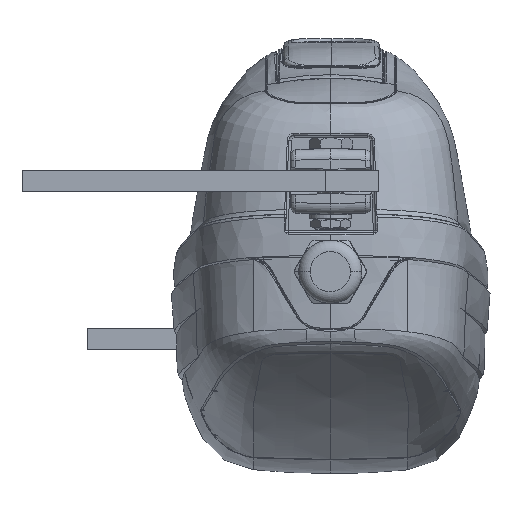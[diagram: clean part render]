
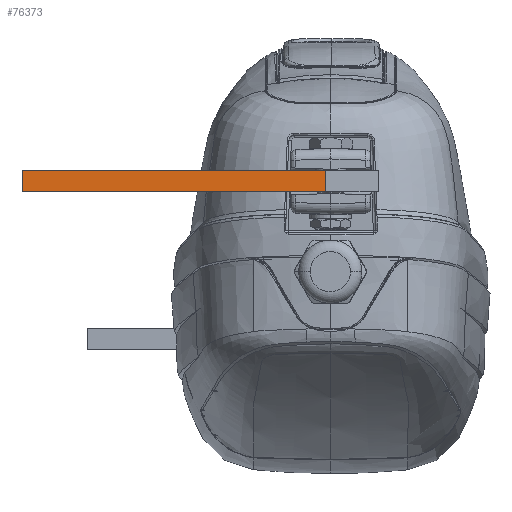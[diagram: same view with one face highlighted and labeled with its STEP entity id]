
A CAD part, left-side view. The second image highlights one B-rep face of the part: STEP entity #76373.
In plain terms, the highlighted planar face has unit normal (-1, 0, 0).
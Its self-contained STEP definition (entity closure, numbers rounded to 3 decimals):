
#1330 = FACE_OUTER_BOUND ( 'NONE', #118959, .T. ) ;
#6682 = CARTESIAN_POINT ( 'NONE',  ( -1060.881, 116.994, -3.947 ) ) ;
#10072 = CARTESIAN_POINT ( 'NONE',  ( -1060.881, 201.994, 4.053 ) ) ;
#13639 = LINE ( 'NONE', #116649, #106787 ) ;
#18982 = DIRECTION ( 'NONE',  ( 0., 0., -1. ) ) ;
#19500 = LINE ( 'NONE', #151059, #87944 ) ;
#20621 = ORIENTED_EDGE ( 'NONE', *, *, #32149, .F. ) ;
#23123 = DIRECTION ( 'NONE',  ( 0., -1., 0. ) ) ;
#25073 = CARTESIAN_POINT ( 'NONE',  ( -1060.881, 1.994, 4.053 ) ) ;
#32149 = EDGE_CURVE ( 'NONE', #83177, #157497, #13639, .T. ) ;
#32947 = AXIS2_PLACEMENT_3D ( 'NONE', #10072, #144952, #72268 ) ;
#41983 = VECTOR ( 'NONE', #145136, 1000. ) ;
#42177 = CARTESIAN_POINT ( 'NONE',  ( -1060.881, 1.994, -3.947 ) ) ;
#45803 = LINE ( 'NONE', #133972, #41983 ) ;
#50796 = ORIENTED_EDGE ( 'NONE', *, *, #123160, .F. ) ;
#60065 = PLANE ( 'NONE',  #32947 ) ;
#63328 = VERTEX_POINT ( 'NONE', #6682 ) ;
#72268 = DIRECTION ( 'NONE',  ( 0., 0.707, -0.707 ) ) ;
#76373 = ADVANCED_FACE ( 'NONE', ( #1330 ), #60065, .T. ) ;
#80091 = CARTESIAN_POINT ( 'NONE',  ( -1060.881, 116.994, 4.053 ) ) ;
#83177 = VERTEX_POINT ( 'NONE', #125603 ) ;
#87944 = VECTOR ( 'NONE', #126668, 1000. ) ;
#98432 = VERTEX_POINT ( 'NONE', #42177 ) ;
#100471 = VECTOR ( 'NONE', #18982, 1000. ) ;
#105152 = EDGE_CURVE ( 'NONE', #63328, #98432, #19500, .T. ) ;
#106787 = VECTOR ( 'NONE', #23123, 1000. ) ;
#116649 = CARTESIAN_POINT ( 'NONE',  ( -1060.881, 201.994, 4.053 ) ) ;
#118959 = EDGE_LOOP ( 'NONE', ( #136017, #50796, #20621, #140568 ) ) ;
#123160 = EDGE_CURVE ( 'NONE', #157497, #98432, #45803, .T. ) ;
#125603 = CARTESIAN_POINT ( 'NONE',  ( -1060.881, 116.994, 4.053 ) ) ;
#126668 = DIRECTION ( 'NONE',  ( 0., -1., 0. ) ) ;
#132762 = LINE ( 'NONE', #80091, #100471 ) ;
#133972 = CARTESIAN_POINT ( 'NONE',  ( -1060.881, 1.994, 4.053 ) ) ;
#136017 = ORIENTED_EDGE ( 'NONE', *, *, #105152, .T. ) ;
#136505 = EDGE_CURVE ( 'NONE', #83177, #63328, #132762, .T. ) ;
#140568 = ORIENTED_EDGE ( 'NONE', *, *, #136505, .T. ) ;
#144952 = DIRECTION ( 'NONE',  ( -1., 0., 0. ) ) ;
#145136 = DIRECTION ( 'NONE',  ( 0., 0., -1. ) ) ;
#151059 = CARTESIAN_POINT ( 'NONE',  ( -1060.881, 201.994, -3.947 ) ) ;
#157497 = VERTEX_POINT ( 'NONE', #25073 ) ;
